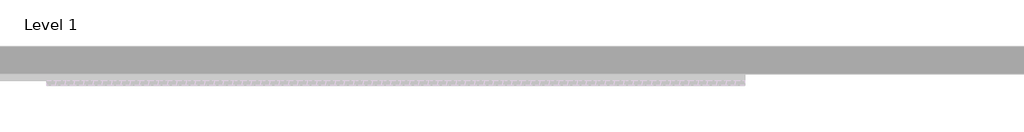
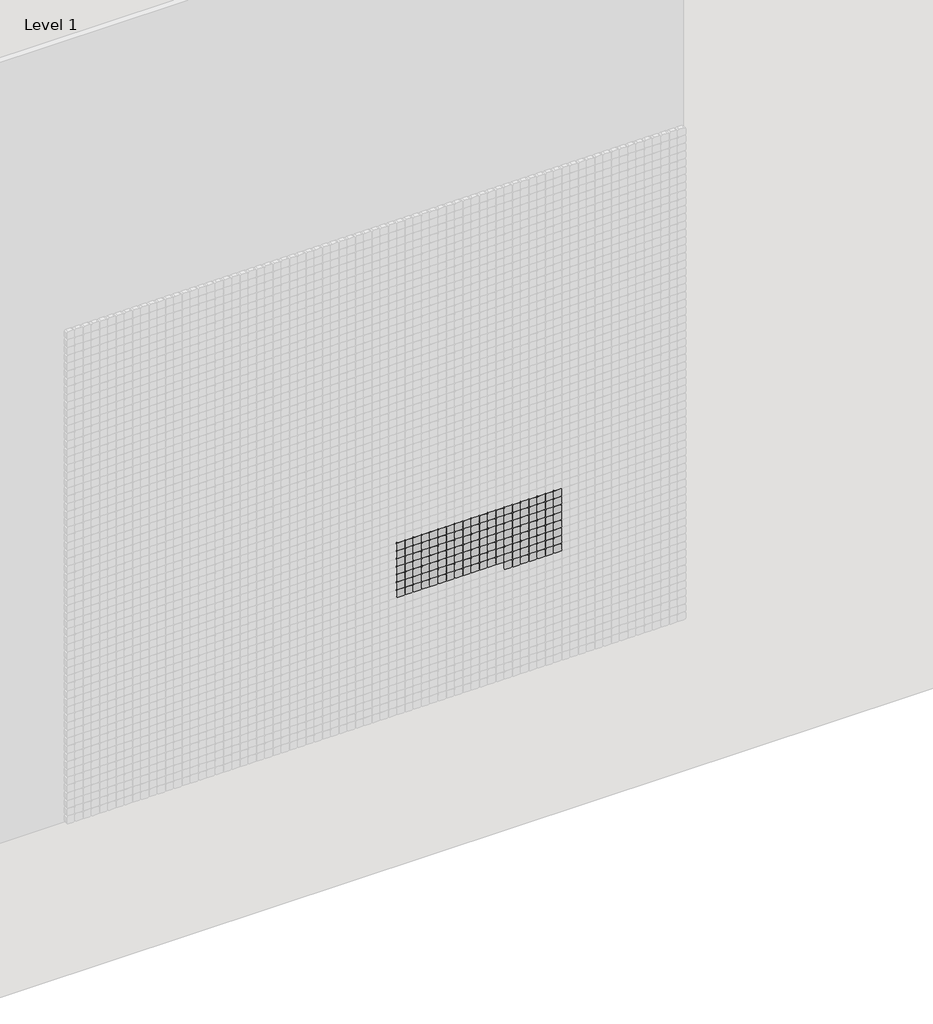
# One storey, part 59 of 71: 147 proxies.
"""IFC4 building model written with IfcOpenShell, lengths in millimetres."""

from ifc_helpers import new_model, si_unit, origin, place, context, project, spatial, transform, mapped, element, save
from components import generic_models_afde289c

model = new_model("IFC4")

# Units and contexts
model_context = context("Model", 3, world=origin())
ifc_project = project(units=[si_unit("LENGTHUNIT", "METRE", prefix="MILLI")], contexts=[model_context])

# Site, building, storey
site = spatial("IfcSite", under=ifc_project)
building = spatial("IfcBuilding", under=site)
storey = spatial("IfcBuildingStorey", under=building, Name="Level 1", Elevation=0.0)

# Proxies
placement = place(None, origin())
generic_models_shape = generic_models_afde289c(model_context)
element("IfcBuildingElementProxy", 1, Name="Pixel_M : Pixel_M", ObjectType="Pixel_M : Pixel_M", at=placement, inside=storey, context=model_context, shape_type="MappedRepresentation", body=[
    mapped(generic_models_shape, transform((8962.4280941, -75.0, 2066.3566215), x_axis=(1.0, 0.0, 0.0), y_axis=(0.0, 0.0, 1.0), z_axis=(0.0, -1.0, 0.0))),
])
element("IfcBuildingElementProxy", 2, Name="Pixel_M : Pixel_M", ObjectType="Pixel_M : Pixel_M", at=placement, inside=storey, context=model_context, shape_type="MappedRepresentation", body=[
    mapped(generic_models_shape, transform((8912.4280941, -75.0, 2066.3566215), x_axis=(1.0, 0.0, 0.0), y_axis=(0.0, 0.0, 1.0), z_axis=(0.0, -1.0, 0.0))),
])
element("IfcBuildingElementProxy", 3, Name="Pixel_M : Pixel_M", ObjectType="Pixel_M : Pixel_M", at=placement, inside=storey, context=model_context, shape_type="MappedRepresentation", body=[
    mapped(generic_models_shape, transform((8862.4280941, -75.0, 2066.3566215), x_axis=(1.0, 0.0, 0.0), y_axis=(0.0, 0.0, 1.0), z_axis=(0.0, -1.0, 0.0))),
])
element("IfcBuildingElementProxy", 4, Name="Pixel_M : Pixel_M", ObjectType="Pixel_M : Pixel_M", at=placement, inside=storey, context=model_context, shape_type="MappedRepresentation", body=[
    mapped(generic_models_shape, transform((8812.4280941, -75.0, 2066.3566215), x_axis=(1.0, 0.0, 0.0), y_axis=(0.0, 0.0, 1.0), z_axis=(0.0, -1.0, 0.0))),
])
element("IfcBuildingElementProxy", 5, Name="Pixel_M : Pixel_M", ObjectType="Pixel_M : Pixel_M", at=placement, inside=storey, context=model_context, shape_type="MappedRepresentation", body=[
    mapped(generic_models_shape, transform((8762.4280941, -75.0, 2066.3566215), x_axis=(1.0, 0.0, 0.0), y_axis=(0.0, 0.0, 1.0), z_axis=(0.0, -1.0, 0.0))),
])
element("IfcBuildingElementProxy", 6, Name="Pixel_M : Pixel_M", ObjectType="Pixel_M : Pixel_M", at=placement, inside=storey, context=model_context, shape_type="MappedRepresentation", body=[
    mapped(generic_models_shape, transform((8712.4280941, -75.0, 2066.3566215), x_axis=(1.0, 0.0, 0.0), y_axis=(0.0, 0.0, 1.0), z_axis=(0.0, -1.0, 0.0))),
])
element("IfcBuildingElementProxy", 7, Name="Pixel_M : Pixel_M", ObjectType="Pixel_M : Pixel_M", at=placement, inside=storey, context=model_context, shape_type="MappedRepresentation", body=[
    mapped(generic_models_shape, transform((8662.4280941, -75.0, 2066.3566215), x_axis=(1.0, 0.0, 0.0), y_axis=(0.0, 0.0, 1.0), z_axis=(0.0, -1.0, 0.0))),
])
element("IfcBuildingElementProxy", 8, Name="Pixel_M : Pixel_M", ObjectType="Pixel_M : Pixel_M", at=placement, inside=storey, context=model_context, shape_type="MappedRepresentation", body=[
    mapped(generic_models_shape, transform((8612.4280941, -75.0, 2066.3566215), x_axis=(1.0, 0.0, 0.0), y_axis=(0.0, 0.0, 1.0), z_axis=(0.0, -1.0, 0.0))),
])
element("IfcBuildingElementProxy", 9, Name="Pixel_M : Pixel_M", ObjectType="Pixel_M : Pixel_M", at=placement, inside=storey, context=model_context, shape_type="MappedRepresentation", body=[
    mapped(generic_models_shape, transform((8562.4280941, -75.0, 2066.3566215), x_axis=(1.0, 0.0, 0.0), y_axis=(0.0, 0.0, 1.0), z_axis=(0.0, -1.0, 0.0))),
])
element("IfcBuildingElementProxy", 10, Name="Pixel_M : Pixel_M", ObjectType="Pixel_M : Pixel_M", at=placement, inside=storey, context=model_context, shape_type="MappedRepresentation", body=[
    mapped(generic_models_shape, transform((8512.4280941, -75.0, 2066.3566215), x_axis=(1.0, 0.0, 0.0), y_axis=(0.0, 0.0, 1.0), z_axis=(0.0, -1.0, 0.0))),
])
element("IfcBuildingElementProxy", 11, Name="Pixel_M : Pixel_M", ObjectType="Pixel_M : Pixel_M", at=placement, inside=storey, context=model_context, shape_type="MappedRepresentation", body=[
    mapped(generic_models_shape, transform((8462.4280941, -75.0, 2066.3566215), x_axis=(1.0, 0.0, 0.0), y_axis=(0.0, 0.0, 1.0), z_axis=(0.0, -1.0, 0.0))),
])
element("IfcBuildingElementProxy", 12, Name="Pixel_M : Pixel_M", ObjectType="Pixel_M : Pixel_M", at=placement, inside=storey, context=model_context, shape_type="MappedRepresentation", body=[
    mapped(generic_models_shape, transform((8412.4280941, -75.0, 2066.3566215), x_axis=(1.0, 0.0, 0.0), y_axis=(0.0, 0.0, 1.0), z_axis=(0.0, -1.0, 0.0))),
])
element("IfcBuildingElementProxy", 13, Name="Pixel_M : Pixel_M", ObjectType="Pixel_M : Pixel_M", at=placement, inside=storey, context=model_context, shape_type="MappedRepresentation", body=[
    mapped(generic_models_shape, transform((8362.4280941, -75.0, 2066.3566215), x_axis=(1.0, 0.0, 0.0), y_axis=(0.0, 0.0, 1.0), z_axis=(0.0, -1.0, 0.0))),
])
element("IfcBuildingElementProxy", 14, Name="Pixel_M : Pixel_M", ObjectType="Pixel_M : Pixel_M", at=placement, inside=storey, context=model_context, shape_type="MappedRepresentation", body=[
    mapped(generic_models_shape, transform((8312.4280941, -75.0, 2066.3566215), x_axis=(1.0, 0.0, 0.0), y_axis=(0.0, 0.0, 1.0), z_axis=(0.0, -1.0, 0.0))),
])
element("IfcBuildingElementProxy", 15, Name="Pixel_M : Pixel_M", ObjectType="Pixel_M : Pixel_M", at=placement, inside=storey, context=model_context, shape_type="MappedRepresentation", body=[
    mapped(generic_models_shape, transform((8262.4280941, -75.0, 2066.3566215), x_axis=(1.0, 0.0, 0.0), y_axis=(0.0, 0.0, 1.0), z_axis=(0.0, -1.0, 0.0))),
])
element("IfcBuildingElementProxy", 16, Name="Pixel_M : Pixel_M", ObjectType="Pixel_M : Pixel_M", at=placement, inside=storey, context=model_context, shape_type="MappedRepresentation", body=[
    mapped(generic_models_shape, transform((8212.4280941, -75.0, 2066.3566215), x_axis=(1.0, 0.0, 0.0), y_axis=(0.0, 0.0, 1.0), z_axis=(0.0, -1.0, 0.0))),
])
element("IfcBuildingElementProxy", 17, Name="Pixel_M : Pixel_M", ObjectType="Pixel_M : Pixel_M", at=placement, inside=storey, context=model_context, shape_type="MappedRepresentation", body=[
    mapped(generic_models_shape, transform((8162.4280941, -75.0, 2066.3566215), x_axis=(1.0, 0.0, 0.0), y_axis=(0.0, 0.0, 1.0), z_axis=(0.0, -1.0, 0.0))),
])
element("IfcBuildingElementProxy", 18, Name="Pixel_M : Pixel_M", ObjectType="Pixel_M : Pixel_M", at=placement, inside=storey, context=model_context, shape_type="MappedRepresentation", body=[
    mapped(generic_models_shape, transform((8112.4280941, -75.0, 2066.3566215), x_axis=(1.0, 0.0, 0.0), y_axis=(0.0, 0.0, 1.0), z_axis=(0.0, -1.0, 0.0))),
])
element("IfcBuildingElementProxy", 19, Name="Pixel_M : Pixel_M", ObjectType="Pixel_M : Pixel_M", at=placement, inside=storey, context=model_context, shape_type="MappedRepresentation", body=[
    mapped(generic_models_shape, transform((8062.4280941, -75.0, 2066.3566215), x_axis=(1.0, 0.0, 0.0), y_axis=(0.0, 0.0, 1.0), z_axis=(0.0, -1.0, 0.0))),
])
element("IfcBuildingElementProxy", 20, Name="Pixel_M : Pixel_M", ObjectType="Pixel_M : Pixel_M", at=placement, inside=storey, context=model_context, shape_type="MappedRepresentation", body=[
    mapped(generic_models_shape, transform((8012.4280941, -75.0, 2066.3566215), x_axis=(1.0, 0.0, 0.0), y_axis=(0.0, 0.0, 1.0), z_axis=(0.0, -1.0, 0.0))),
])
element("IfcBuildingElementProxy", 21, Name="Pixel_M : Pixel_M", ObjectType="Pixel_M : Pixel_M", at=placement, inside=storey, context=model_context, shape_type="MappedRepresentation", body=[
    mapped(generic_models_shape, transform((8962.4280941, -75.0, 2016.3566215), x_axis=(1.0, 0.0, 0.0), y_axis=(0.0, 0.0, 1.0), z_axis=(0.0, -1.0, 0.0))),
])
element("IfcBuildingElementProxy", 22, Name="Pixel_M : Pixel_M", ObjectType="Pixel_M : Pixel_M", at=placement, inside=storey, context=model_context, shape_type="MappedRepresentation", body=[
    mapped(generic_models_shape, transform((8912.4280941, -75.0, 2016.3566215), x_axis=(1.0, 0.0, 0.0), y_axis=(0.0, 0.0, 1.0), z_axis=(0.0, -1.0, 0.0))),
])
element("IfcBuildingElementProxy", 23, Name="Pixel_M : Pixel_M", ObjectType="Pixel_M : Pixel_M", at=placement, inside=storey, context=model_context, shape_type="MappedRepresentation", body=[
    mapped(generic_models_shape, transform((8862.4280941, -75.0, 2016.3566215), x_axis=(1.0, 0.0, 0.0), y_axis=(0.0, 0.0, 1.0), z_axis=(0.0, -1.0, 0.0))),
])
element("IfcBuildingElementProxy", 24, Name="Pixel_M : Pixel_M", ObjectType="Pixel_M : Pixel_M", at=placement, inside=storey, context=model_context, shape_type="MappedRepresentation", body=[
    mapped(generic_models_shape, transform((8812.4280941, -75.0, 2016.3566215), x_axis=(1.0, 0.0, 0.0), y_axis=(0.0, 0.0, 1.0), z_axis=(0.0, -1.0, 0.0))),
])
element("IfcBuildingElementProxy", 25, Name="Pixel_M : Pixel_M", ObjectType="Pixel_M : Pixel_M", at=placement, inside=storey, context=model_context, shape_type="MappedRepresentation", body=[
    mapped(generic_models_shape, transform((8762.4280941, -75.0, 2016.3566215), x_axis=(1.0, 0.0, 0.0), y_axis=(0.0, 0.0, 1.0), z_axis=(0.0, -1.0, 0.0))),
])
element("IfcBuildingElementProxy", 26, Name="Pixel_M : Pixel_M", ObjectType="Pixel_M : Pixel_M", at=placement, inside=storey, context=model_context, shape_type="MappedRepresentation", body=[
    mapped(generic_models_shape, transform((8712.4280941, -75.0, 2016.3566215), x_axis=(1.0, 0.0, 0.0), y_axis=(0.0, 0.0, 1.0), z_axis=(0.0, -1.0, 0.0))),
])
element("IfcBuildingElementProxy", 27, Name="Pixel_M : Pixel_M", ObjectType="Pixel_M : Pixel_M", at=placement, inside=storey, context=model_context, shape_type="MappedRepresentation", body=[
    mapped(generic_models_shape, transform((8662.4280941, -75.0, 2016.3566215), x_axis=(1.0, 0.0, 0.0), y_axis=(0.0, 0.0, 1.0), z_axis=(0.0, -1.0, 0.0))),
])
element("IfcBuildingElementProxy", 28, Name="Pixel_M : Pixel_M", ObjectType="Pixel_M : Pixel_M", at=placement, inside=storey, context=model_context, shape_type="MappedRepresentation", body=[
    mapped(generic_models_shape, transform((8612.4280941, -75.0, 2016.3566215), x_axis=(1.0, 0.0, 0.0), y_axis=(0.0, 0.0, 1.0), z_axis=(0.0, -1.0, 0.0))),
])
element("IfcBuildingElementProxy", 29, Name="Pixel_M : Pixel_M", ObjectType="Pixel_M : Pixel_M", at=placement, inside=storey, context=model_context, shape_type="MappedRepresentation", body=[
    mapped(generic_models_shape, transform((8562.4280941, -75.0, 2016.3566215), x_axis=(1.0, 0.0, 0.0), y_axis=(0.0, 0.0, 1.0), z_axis=(0.0, -1.0, 0.0))),
])
element("IfcBuildingElementProxy", 30, Name="Pixel_M : Pixel_M", ObjectType="Pixel_M : Pixel_M", at=placement, inside=storey, context=model_context, shape_type="MappedRepresentation", body=[
    mapped(generic_models_shape, transform((8512.4280941, -75.0, 2016.3566215), x_axis=(1.0, 0.0, 0.0), y_axis=(0.0, 0.0, 1.0), z_axis=(0.0, -1.0, 0.0))),
])
element("IfcBuildingElementProxy", 31, Name="Pixel_M : Pixel_M", ObjectType="Pixel_M : Pixel_M", at=placement, inside=storey, context=model_context, shape_type="MappedRepresentation", body=[
    mapped(generic_models_shape, transform((8462.4280941, -75.0, 2016.3566215), x_axis=(1.0, 0.0, 0.0), y_axis=(0.0, 0.0, 1.0), z_axis=(0.0, -1.0, 0.0))),
])
element("IfcBuildingElementProxy", 32, Name="Pixel_M : Pixel_M", ObjectType="Pixel_M : Pixel_M", at=placement, inside=storey, context=model_context, shape_type="MappedRepresentation", body=[
    mapped(generic_models_shape, transform((8412.4280941, -75.0, 2016.3566215), x_axis=(1.0, 0.0, 0.0), y_axis=(0.0, 0.0, 1.0), z_axis=(0.0, -1.0, 0.0))),
])
element("IfcBuildingElementProxy", 33, Name="Pixel_M : Pixel_M", ObjectType="Pixel_M : Pixel_M", at=placement, inside=storey, context=model_context, shape_type="MappedRepresentation", body=[
    mapped(generic_models_shape, transform((8362.4280941, -75.0, 2016.3566215), x_axis=(1.0, 0.0, 0.0), y_axis=(0.0, 0.0, 1.0), z_axis=(0.0, -1.0, 0.0))),
])
element("IfcBuildingElementProxy", 34, Name="Pixel_M : Pixel_M", ObjectType="Pixel_M : Pixel_M", at=placement, inside=storey, context=model_context, shape_type="MappedRepresentation", body=[
    mapped(generic_models_shape, transform((8312.4280941, -75.0, 2016.3566215), x_axis=(1.0, 0.0, 0.0), y_axis=(0.0, 0.0, 1.0), z_axis=(0.0, -1.0, 0.0))),
])
element("IfcBuildingElementProxy", 35, Name="Pixel_M : Pixel_M", ObjectType="Pixel_M : Pixel_M", at=placement, inside=storey, context=model_context, shape_type="MappedRepresentation", body=[
    mapped(generic_models_shape, transform((8262.4280941, -75.0, 2016.3566215), x_axis=(1.0, 0.0, 0.0), y_axis=(0.0, 0.0, 1.0), z_axis=(0.0, -1.0, 0.0))),
])
element("IfcBuildingElementProxy", 36, Name="Pixel_M : Pixel_M", ObjectType="Pixel_M : Pixel_M", at=placement, inside=storey, context=model_context, shape_type="MappedRepresentation", body=[
    mapped(generic_models_shape, transform((8212.4280941, -75.0, 2016.3566215), x_axis=(1.0, 0.0, 0.0), y_axis=(0.0, 0.0, 1.0), z_axis=(0.0, -1.0, 0.0))),
])
element("IfcBuildingElementProxy", 37, Name="Pixel_M : Pixel_M", ObjectType="Pixel_M : Pixel_M", at=placement, inside=storey, context=model_context, shape_type="MappedRepresentation", body=[
    mapped(generic_models_shape, transform((8162.4280941, -75.0, 2016.3566215), x_axis=(1.0, 0.0, 0.0), y_axis=(0.0, 0.0, 1.0), z_axis=(0.0, -1.0, 0.0))),
])
element("IfcBuildingElementProxy", 38, Name="Pixel_M : Pixel_M", ObjectType="Pixel_M : Pixel_M", at=placement, inside=storey, context=model_context, shape_type="MappedRepresentation", body=[
    mapped(generic_models_shape, transform((8112.4280941, -75.0, 2016.3566215), x_axis=(1.0, 0.0, 0.0), y_axis=(0.0, 0.0, 1.0), z_axis=(0.0, -1.0, 0.0))),
])
element("IfcBuildingElementProxy", 39, Name="Pixel_M : Pixel_M", ObjectType="Pixel_M : Pixel_M", at=placement, inside=storey, context=model_context, shape_type="MappedRepresentation", body=[
    mapped(generic_models_shape, transform((8062.4280941, -75.0, 2016.3566215), x_axis=(1.0, 0.0, 0.0), y_axis=(0.0, 0.0, 1.0), z_axis=(0.0, -1.0, 0.0))),
])
element("IfcBuildingElementProxy", 40, Name="Pixel_M : Pixel_M", ObjectType="Pixel_M : Pixel_M", at=placement, inside=storey, context=model_context, shape_type="MappedRepresentation", body=[
    mapped(generic_models_shape, transform((8012.4280941, -75.0, 2016.3566215), x_axis=(1.0, 0.0, 0.0), y_axis=(0.0, 0.0, 1.0), z_axis=(0.0, -1.0, 0.0))),
])
element("IfcBuildingElementProxy", 41, Name="Pixel_M : Pixel_M", ObjectType="Pixel_M : Pixel_M", at=placement, inside=storey, context=model_context, shape_type="MappedRepresentation", body=[
    mapped(generic_models_shape, transform((8962.4280941, -75.0, 1966.3566215), x_axis=(1.0, 0.0, 0.0), y_axis=(0.0, 0.0, 1.0), z_axis=(0.0, -1.0, 0.0))),
])
element("IfcBuildingElementProxy", 42, Name="Pixel_M : Pixel_M", ObjectType="Pixel_M : Pixel_M", at=placement, inside=storey, context=model_context, shape_type="MappedRepresentation", body=[
    mapped(generic_models_shape, transform((8912.4280941, -75.0, 1966.3566215), x_axis=(1.0, 0.0, 0.0), y_axis=(0.0, 0.0, 1.0), z_axis=(0.0, -1.0, 0.0))),
])
element("IfcBuildingElementProxy", 43, Name="Pixel_M : Pixel_M", ObjectType="Pixel_M : Pixel_M", at=placement, inside=storey, context=model_context, shape_type="MappedRepresentation", body=[
    mapped(generic_models_shape, transform((8862.4280941, -75.0, 1966.3566215), x_axis=(1.0, 0.0, 0.0), y_axis=(0.0, 0.0, 1.0), z_axis=(0.0, -1.0, 0.0))),
])
element("IfcBuildingElementProxy", 44, Name="Pixel_M : Pixel_M", ObjectType="Pixel_M : Pixel_M", at=placement, inside=storey, context=model_context, shape_type="MappedRepresentation", body=[
    mapped(generic_models_shape, transform((8812.4280941, -75.0, 1966.3566215), x_axis=(1.0, 0.0, 0.0), y_axis=(0.0, 0.0, 1.0), z_axis=(0.0, -1.0, 0.0))),
])
element("IfcBuildingElementProxy", 45, Name="Pixel_M : Pixel_M", ObjectType="Pixel_M : Pixel_M", at=placement, inside=storey, context=model_context, shape_type="MappedRepresentation", body=[
    mapped(generic_models_shape, transform((8762.4280941, -75.0, 1966.3566215), x_axis=(1.0, 0.0, 0.0), y_axis=(0.0, 0.0, 1.0), z_axis=(0.0, -1.0, 0.0))),
])
element("IfcBuildingElementProxy", 46, Name="Pixel_M : Pixel_M", ObjectType="Pixel_M : Pixel_M", at=placement, inside=storey, context=model_context, shape_type="MappedRepresentation", body=[
    mapped(generic_models_shape, transform((8712.4280941, -75.0, 1966.3566215), x_axis=(1.0, 0.0, 0.0), y_axis=(0.0, 0.0, 1.0), z_axis=(0.0, -1.0, 0.0))),
])
element("IfcBuildingElementProxy", 47, Name="Pixel_M : Pixel_M", ObjectType="Pixel_M : Pixel_M", at=placement, inside=storey, context=model_context, shape_type="MappedRepresentation", body=[
    mapped(generic_models_shape, transform((8662.4280941, -75.0, 1966.3566215), x_axis=(1.0, 0.0, 0.0), y_axis=(0.0, 0.0, 1.0), z_axis=(0.0, -1.0, 0.0))),
])
element("IfcBuildingElementProxy", 48, Name="Pixel_M : Pixel_M", ObjectType="Pixel_M : Pixel_M", at=placement, inside=storey, context=model_context, shape_type="MappedRepresentation", body=[
    mapped(generic_models_shape, transform((8612.4280941, -75.0, 1966.3566215), x_axis=(1.0, 0.0, 0.0), y_axis=(0.0, 0.0, 1.0), z_axis=(0.0, -1.0, 0.0))),
])
element("IfcBuildingElementProxy", 49, Name="Pixel_M : Pixel_M", ObjectType="Pixel_M : Pixel_M", at=placement, inside=storey, context=model_context, shape_type="MappedRepresentation", body=[
    mapped(generic_models_shape, transform((8562.4280941, -75.0, 1966.3566215), x_axis=(1.0, 0.0, 0.0), y_axis=(0.0, 0.0, 1.0), z_axis=(0.0, -1.0, 0.0))),
])
element("IfcBuildingElementProxy", 50, Name="Pixel_M : Pixel_M", ObjectType="Pixel_M : Pixel_M", at=placement, inside=storey, context=model_context, shape_type="MappedRepresentation", body=[
    mapped(generic_models_shape, transform((8512.4280941, -75.0, 1966.3566215), x_axis=(1.0, 0.0, 0.0), y_axis=(0.0, 0.0, 1.0), z_axis=(0.0, -1.0, 0.0))),
])
element("IfcBuildingElementProxy", 51, Name="Pixel_M : Pixel_M", ObjectType="Pixel_M : Pixel_M", at=placement, inside=storey, context=model_context, shape_type="MappedRepresentation", body=[
    mapped(generic_models_shape, transform((8462.4280941, -75.0, 1966.3566215), x_axis=(1.0, 0.0, 0.0), y_axis=(0.0, 0.0, 1.0), z_axis=(0.0, -1.0, 0.0))),
])
element("IfcBuildingElementProxy", 52, Name="Pixel_M : Pixel_M", ObjectType="Pixel_M : Pixel_M", at=placement, inside=storey, context=model_context, shape_type="MappedRepresentation", body=[
    mapped(generic_models_shape, transform((8412.4280941, -75.0, 1966.3566215), x_axis=(1.0, 0.0, 0.0), y_axis=(0.0, 0.0, 1.0), z_axis=(0.0, -1.0, 0.0))),
])
element("IfcBuildingElementProxy", 53, Name="Pixel_M : Pixel_M", ObjectType="Pixel_M : Pixel_M", at=placement, inside=storey, context=model_context, shape_type="MappedRepresentation", body=[
    mapped(generic_models_shape, transform((8362.4280941, -75.0, 1966.3566215), x_axis=(1.0, 0.0, 0.0), y_axis=(0.0, 0.0, 1.0), z_axis=(0.0, -1.0, 0.0))),
])
element("IfcBuildingElementProxy", 54, Name="Pixel_M : Pixel_M", ObjectType="Pixel_M : Pixel_M", at=placement, inside=storey, context=model_context, shape_type="MappedRepresentation", body=[
    mapped(generic_models_shape, transform((8312.4280941, -75.0, 1966.3566215), x_axis=(1.0, 0.0, 0.0), y_axis=(0.0, 0.0, 1.0), z_axis=(0.0, -1.0, 0.0))),
])
element("IfcBuildingElementProxy", 55, Name="Pixel_M : Pixel_M", ObjectType="Pixel_M : Pixel_M", at=placement, inside=storey, context=model_context, shape_type="MappedRepresentation", body=[
    mapped(generic_models_shape, transform((8262.4280941, -75.0, 1966.3566215), x_axis=(1.0, 0.0, 0.0), y_axis=(0.0, 0.0, 1.0), z_axis=(0.0, -1.0, 0.0))),
])
element("IfcBuildingElementProxy", 56, Name="Pixel_M : Pixel_M", ObjectType="Pixel_M : Pixel_M", at=placement, inside=storey, context=model_context, shape_type="MappedRepresentation", body=[
    mapped(generic_models_shape, transform((8212.4280941, -75.0, 1966.3566215), x_axis=(1.0, 0.0, 0.0), y_axis=(0.0, 0.0, 1.0), z_axis=(0.0, -1.0, 0.0))),
])
element("IfcBuildingElementProxy", 57, Name="Pixel_M : Pixel_M", ObjectType="Pixel_M : Pixel_M", at=placement, inside=storey, context=model_context, shape_type="MappedRepresentation", body=[
    mapped(generic_models_shape, transform((8162.4280941, -75.0, 1966.3566215), x_axis=(1.0, 0.0, 0.0), y_axis=(0.0, 0.0, 1.0), z_axis=(0.0, -1.0, 0.0))),
])
element("IfcBuildingElementProxy", 58, Name="Pixel_M : Pixel_M", ObjectType="Pixel_M : Pixel_M", at=placement, inside=storey, context=model_context, shape_type="MappedRepresentation", body=[
    mapped(generic_models_shape, transform((8112.4280941, -75.0, 1966.3566215), x_axis=(1.0, 0.0, 0.0), y_axis=(0.0, 0.0, 1.0), z_axis=(0.0, -1.0, 0.0))),
])
element("IfcBuildingElementProxy", 59, Name="Pixel_M : Pixel_M", ObjectType="Pixel_M : Pixel_M", at=placement, inside=storey, context=model_context, shape_type="MappedRepresentation", body=[
    mapped(generic_models_shape, transform((8062.4280941, -75.0, 1966.3566215), x_axis=(1.0, 0.0, 0.0), y_axis=(0.0, 0.0, 1.0), z_axis=(0.0, -1.0, 0.0))),
])
element("IfcBuildingElementProxy", 60, Name="Pixel_M : Pixel_M", ObjectType="Pixel_M : Pixel_M", at=placement, inside=storey, context=model_context, shape_type="MappedRepresentation", body=[
    mapped(generic_models_shape, transform((8012.4280941, -75.0, 1966.3566215), x_axis=(1.0, 0.0, 0.0), y_axis=(0.0, 0.0, 1.0), z_axis=(0.0, -1.0, 0.0))),
])
element("IfcBuildingElementProxy", 61, Name="Pixel_M : Pixel_M", ObjectType="Pixel_M : Pixel_M", at=placement, inside=storey, context=model_context, shape_type="MappedRepresentation", body=[
    mapped(generic_models_shape, transform((8962.4280941, -75.0, 1916.3566215), x_axis=(1.0, 0.0, 0.0), y_axis=(0.0, 0.0, 1.0), z_axis=(0.0, -1.0, 0.0))),
])
element("IfcBuildingElementProxy", 62, Name="Pixel_M : Pixel_M", ObjectType="Pixel_M : Pixel_M", at=placement, inside=storey, context=model_context, shape_type="MappedRepresentation", body=[
    mapped(generic_models_shape, transform((8912.4280941, -75.0, 1916.3566215), x_axis=(1.0, 0.0, 0.0), y_axis=(0.0, 0.0, 1.0), z_axis=(0.0, -1.0, 0.0))),
])
element("IfcBuildingElementProxy", 63, Name="Pixel_M : Pixel_M", ObjectType="Pixel_M : Pixel_M", at=placement, inside=storey, context=model_context, shape_type="MappedRepresentation", body=[
    mapped(generic_models_shape, transform((8862.4280941, -75.0, 1916.3566215), x_axis=(1.0, 0.0, 0.0), y_axis=(0.0, 0.0, 1.0), z_axis=(0.0, -1.0, 0.0))),
])
element("IfcBuildingElementProxy", 64, Name="Pixel_M : Pixel_M", ObjectType="Pixel_M : Pixel_M", at=placement, inside=storey, context=model_context, shape_type="MappedRepresentation", body=[
    mapped(generic_models_shape, transform((8812.4280941, -75.0, 1916.3566215), x_axis=(1.0, 0.0, 0.0), y_axis=(0.0, 0.0, 1.0), z_axis=(0.0, -1.0, 0.0))),
])
element("IfcBuildingElementProxy", 65, Name="Pixel_M : Pixel_M", ObjectType="Pixel_M : Pixel_M", at=placement, inside=storey, context=model_context, shape_type="MappedRepresentation", body=[
    mapped(generic_models_shape, transform((8762.4280941, -75.0, 1916.3566215), x_axis=(1.0, 0.0, 0.0), y_axis=(0.0, 0.0, 1.0), z_axis=(0.0, -1.0, 0.0))),
])
element("IfcBuildingElementProxy", 66, Name="Pixel_M : Pixel_M", ObjectType="Pixel_M : Pixel_M", at=placement, inside=storey, context=model_context, shape_type="MappedRepresentation", body=[
    mapped(generic_models_shape, transform((8712.4280941, -75.0, 1916.3566215), x_axis=(1.0, 0.0, 0.0), y_axis=(0.0, 0.0, 1.0), z_axis=(0.0, -1.0, 0.0))),
])
element("IfcBuildingElementProxy", 67, Name="Pixel_M : Pixel_M", ObjectType="Pixel_M : Pixel_M", at=placement, inside=storey, context=model_context, shape_type="MappedRepresentation", body=[
    mapped(generic_models_shape, transform((8662.4280941, -75.0, 1916.3566215), x_axis=(1.0, 0.0, 0.0), y_axis=(0.0, 0.0, 1.0), z_axis=(0.0, -1.0, 0.0))),
])
element("IfcBuildingElementProxy", 68, Name="Pixel_M : Pixel_M", ObjectType="Pixel_M : Pixel_M", at=placement, inside=storey, context=model_context, shape_type="MappedRepresentation", body=[
    mapped(generic_models_shape, transform((8612.4280941, -75.0, 1916.3566215), x_axis=(1.0, 0.0, 0.0), y_axis=(0.0, 0.0, 1.0), z_axis=(0.0, -1.0, 0.0))),
])
element("IfcBuildingElementProxy", 69, Name="Pixel_M : Pixel_M", ObjectType="Pixel_M : Pixel_M", at=placement, inside=storey, context=model_context, shape_type="MappedRepresentation", body=[
    mapped(generic_models_shape, transform((8562.4280941, -75.0, 1916.3566215), x_axis=(1.0, 0.0, 0.0), y_axis=(0.0, 0.0, 1.0), z_axis=(0.0, -1.0, 0.0))),
])
element("IfcBuildingElementProxy", 70, Name="Pixel_M : Pixel_M", ObjectType="Pixel_M : Pixel_M", at=placement, inside=storey, context=model_context, shape_type="MappedRepresentation", body=[
    mapped(generic_models_shape, transform((8512.4280941, -75.0, 1916.3566215), x_axis=(1.0, 0.0, 0.0), y_axis=(0.0, 0.0, 1.0), z_axis=(0.0, -1.0, 0.0))),
])
element("IfcBuildingElementProxy", 71, Name="Pixel_M : Pixel_M", ObjectType="Pixel_M : Pixel_M", at=placement, inside=storey, context=model_context, shape_type="MappedRepresentation", body=[
    mapped(generic_models_shape, transform((8462.4280941, -75.0, 1916.3566215), x_axis=(1.0, 0.0, 0.0), y_axis=(0.0, 0.0, 1.0), z_axis=(0.0, -1.0, 0.0))),
])
element("IfcBuildingElementProxy", 72, Name="Pixel_M : Pixel_M", ObjectType="Pixel_M : Pixel_M", at=placement, inside=storey, context=model_context, shape_type="MappedRepresentation", body=[
    mapped(generic_models_shape, transform((8412.4280941, -75.0, 1916.3566215), x_axis=(1.0, 0.0, 0.0), y_axis=(0.0, 0.0, 1.0), z_axis=(0.0, -1.0, 0.0))),
])
element("IfcBuildingElementProxy", 73, Name="Pixel_M : Pixel_M", ObjectType="Pixel_M : Pixel_M", at=placement, inside=storey, context=model_context, shape_type="MappedRepresentation", body=[
    mapped(generic_models_shape, transform((8362.4280941, -75.0, 1916.3566215), x_axis=(1.0, 0.0, 0.0), y_axis=(0.0, 0.0, 1.0), z_axis=(0.0, -1.0, 0.0))),
])
element("IfcBuildingElementProxy", 74, Name="Pixel_M : Pixel_M", ObjectType="Pixel_M : Pixel_M", at=placement, inside=storey, context=model_context, shape_type="MappedRepresentation", body=[
    mapped(generic_models_shape, transform((8312.4280941, -75.0, 1916.3566215), x_axis=(1.0, 0.0, 0.0), y_axis=(0.0, 0.0, 1.0), z_axis=(0.0, -1.0, 0.0))),
])
element("IfcBuildingElementProxy", 75, Name="Pixel_M : Pixel_M", ObjectType="Pixel_M : Pixel_M", at=placement, inside=storey, context=model_context, shape_type="MappedRepresentation", body=[
    mapped(generic_models_shape, transform((8262.4280941, -75.0, 1916.3566215), x_axis=(1.0, 0.0, 0.0), y_axis=(0.0, 0.0, 1.0), z_axis=(0.0, -1.0, 0.0))),
])
element("IfcBuildingElementProxy", 76, Name="Pixel_M : Pixel_M", ObjectType="Pixel_M : Pixel_M", at=placement, inside=storey, context=model_context, shape_type="MappedRepresentation", body=[
    mapped(generic_models_shape, transform((8212.4280941, -75.0, 1916.3566215), x_axis=(1.0, 0.0, 0.0), y_axis=(0.0, 0.0, 1.0), z_axis=(0.0, -1.0, 0.0))),
])
element("IfcBuildingElementProxy", 77, Name="Pixel_M : Pixel_M", ObjectType="Pixel_M : Pixel_M", at=placement, inside=storey, context=model_context, shape_type="MappedRepresentation", body=[
    mapped(generic_models_shape, transform((8162.4280941, -75.0, 1916.3566215), x_axis=(1.0, 0.0, 0.0), y_axis=(0.0, 0.0, 1.0), z_axis=(0.0, -1.0, 0.0))),
])
element("IfcBuildingElementProxy", 78, Name="Pixel_M : Pixel_M", ObjectType="Pixel_M : Pixel_M", at=placement, inside=storey, context=model_context, shape_type="MappedRepresentation", body=[
    mapped(generic_models_shape, transform((8112.4280941, -75.0, 1916.3566215), x_axis=(1.0, 0.0, 0.0), y_axis=(0.0, 0.0, 1.0), z_axis=(0.0, -1.0, 0.0))),
])
element("IfcBuildingElementProxy", 79, Name="Pixel_M : Pixel_M", ObjectType="Pixel_M : Pixel_M", at=placement, inside=storey, context=model_context, shape_type="MappedRepresentation", body=[
    mapped(generic_models_shape, transform((8062.4280941, -75.0, 1916.3566215), x_axis=(1.0, 0.0, 0.0), y_axis=(0.0, 0.0, 1.0), z_axis=(0.0, -1.0, 0.0))),
])
element("IfcBuildingElementProxy", 80, Name="Pixel_M : Pixel_M", ObjectType="Pixel_M : Pixel_M", at=placement, inside=storey, context=model_context, shape_type="MappedRepresentation", body=[
    mapped(generic_models_shape, transform((8012.4280941, -75.0, 1916.3566215), x_axis=(1.0, 0.0, 0.0), y_axis=(0.0, 0.0, 1.0), z_axis=(0.0, -1.0, 0.0))),
])
element("IfcBuildingElementProxy", 81, Name="Pixel_M : Pixel_M", ObjectType="Pixel_M : Pixel_M", at=placement, inside=storey, context=model_context, shape_type="MappedRepresentation", body=[
    mapped(generic_models_shape, transform((8962.4280941, -75.0, 1866.3566215), x_axis=(1.0, 0.0, 0.0), y_axis=(0.0, 0.0, 1.0), z_axis=(0.0, -1.0, 0.0))),
])
element("IfcBuildingElementProxy", 82, Name="Pixel_M : Pixel_M", ObjectType="Pixel_M : Pixel_M", at=placement, inside=storey, context=model_context, shape_type="MappedRepresentation", body=[
    mapped(generic_models_shape, transform((8912.4280941, -75.0, 1866.3566215), x_axis=(1.0, 0.0, 0.0), y_axis=(0.0, 0.0, 1.0), z_axis=(0.0, -1.0, 0.0))),
])
element("IfcBuildingElementProxy", 83, Name="Pixel_M : Pixel_M", ObjectType="Pixel_M : Pixel_M", at=placement, inside=storey, context=model_context, shape_type="MappedRepresentation", body=[
    mapped(generic_models_shape, transform((8862.4280941, -75.0, 1866.3566215), x_axis=(1.0, 0.0, 0.0), y_axis=(0.0, 0.0, 1.0), z_axis=(0.0, -1.0, 0.0))),
])
element("IfcBuildingElementProxy", 84, Name="Pixel_M : Pixel_M", ObjectType="Pixel_M : Pixel_M", at=placement, inside=storey, context=model_context, shape_type="MappedRepresentation", body=[
    mapped(generic_models_shape, transform((8812.4280941, -75.0, 1866.3566215), x_axis=(1.0, 0.0, 0.0), y_axis=(0.0, 0.0, 1.0), z_axis=(0.0, -1.0, 0.0))),
])
element("IfcBuildingElementProxy", 85, Name="Pixel_M : Pixel_M", ObjectType="Pixel_M : Pixel_M", at=placement, inside=storey, context=model_context, shape_type="MappedRepresentation", body=[
    mapped(generic_models_shape, transform((8762.4280941, -75.0, 1866.3566215), x_axis=(1.0, 0.0, 0.0), y_axis=(0.0, 0.0, 1.0), z_axis=(0.0, -1.0, 0.0))),
])
element("IfcBuildingElementProxy", 86, Name="Pixel_M : Pixel_M", ObjectType="Pixel_M : Pixel_M", at=placement, inside=storey, context=model_context, shape_type="MappedRepresentation", body=[
    mapped(generic_models_shape, transform((8712.4280941, -75.0, 1866.3566215), x_axis=(1.0, 0.0, 0.0), y_axis=(0.0, 0.0, 1.0), z_axis=(0.0, -1.0, 0.0))),
])
element("IfcBuildingElementProxy", 87, Name="Pixel_M : Pixel_M", ObjectType="Pixel_M : Pixel_M", at=placement, inside=storey, context=model_context, shape_type="MappedRepresentation", body=[
    mapped(generic_models_shape, transform((8662.4280941, -75.0, 1866.3566215), x_axis=(1.0, 0.0, 0.0), y_axis=(0.0, 0.0, 1.0), z_axis=(0.0, -1.0, 0.0))),
])
element("IfcBuildingElementProxy", 88, Name="Pixel_M : Pixel_M", ObjectType="Pixel_M : Pixel_M", at=placement, inside=storey, context=model_context, shape_type="MappedRepresentation", body=[
    mapped(generic_models_shape, transform((8612.4280941, -75.0, 1866.3566215), x_axis=(1.0, 0.0, 0.0), y_axis=(0.0, 0.0, 1.0), z_axis=(0.0, -1.0, 0.0))),
])
element("IfcBuildingElementProxy", 89, Name="Pixel_M : Pixel_M", ObjectType="Pixel_M : Pixel_M", at=placement, inside=storey, context=model_context, shape_type="MappedRepresentation", body=[
    mapped(generic_models_shape, transform((8562.4280941, -75.0, 1866.3566215), x_axis=(1.0, 0.0, 0.0), y_axis=(0.0, 0.0, 1.0), z_axis=(0.0, -1.0, 0.0))),
])
element("IfcBuildingElementProxy", 90, Name="Pixel_M : Pixel_M", ObjectType="Pixel_M : Pixel_M", at=placement, inside=storey, context=model_context, shape_type="MappedRepresentation", body=[
    mapped(generic_models_shape, transform((8512.4280941, -75.0, 1866.3566215), x_axis=(1.0, 0.0, 0.0), y_axis=(0.0, 0.0, 1.0), z_axis=(0.0, -1.0, 0.0))),
])
element("IfcBuildingElementProxy", 91, Name="Pixel_M : Pixel_M", ObjectType="Pixel_M : Pixel_M", at=placement, inside=storey, context=model_context, shape_type="MappedRepresentation", body=[
    mapped(generic_models_shape, transform((8462.4280941, -75.0, 1866.3566215), x_axis=(1.0, 0.0, 0.0), y_axis=(0.0, 0.0, 1.0), z_axis=(0.0, -1.0, 0.0))),
])
element("IfcBuildingElementProxy", 92, Name="Pixel_M : Pixel_M", ObjectType="Pixel_M : Pixel_M", at=placement, inside=storey, context=model_context, shape_type="MappedRepresentation", body=[
    mapped(generic_models_shape, transform((8412.4280941, -75.0, 1866.3566215), x_axis=(1.0, 0.0, 0.0), y_axis=(0.0, 0.0, 1.0), z_axis=(0.0, -1.0, 0.0))),
])
element("IfcBuildingElementProxy", 93, Name="Pixel_M : Pixel_M", ObjectType="Pixel_M : Pixel_M", at=placement, inside=storey, context=model_context, shape_type="MappedRepresentation", body=[
    mapped(generic_models_shape, transform((8362.4280941, -75.0, 1866.3566215), x_axis=(1.0, 0.0, 0.0), y_axis=(0.0, 0.0, 1.0), z_axis=(0.0, -1.0, 0.0))),
])
element("IfcBuildingElementProxy", 94, Name="Pixel_M : Pixel_M", ObjectType="Pixel_M : Pixel_M", at=placement, inside=storey, context=model_context, shape_type="MappedRepresentation", body=[
    mapped(generic_models_shape, transform((8312.4280941, -75.0, 1866.3566215), x_axis=(1.0, 0.0, 0.0), y_axis=(0.0, 0.0, 1.0), z_axis=(0.0, -1.0, 0.0))),
])
element("IfcBuildingElementProxy", 95, Name="Pixel_M : Pixel_M", ObjectType="Pixel_M : Pixel_M", at=placement, inside=storey, context=model_context, shape_type="MappedRepresentation", body=[
    mapped(generic_models_shape, transform((8262.4280941, -75.0, 1866.3566215), x_axis=(1.0, 0.0, 0.0), y_axis=(0.0, 0.0, 1.0), z_axis=(0.0, -1.0, 0.0))),
])
element("IfcBuildingElementProxy", 96, Name="Pixel_M : Pixel_M", ObjectType="Pixel_M : Pixel_M", at=placement, inside=storey, context=model_context, shape_type="MappedRepresentation", body=[
    mapped(generic_models_shape, transform((8212.4280941, -75.0, 1866.3566215), x_axis=(1.0, 0.0, 0.0), y_axis=(0.0, 0.0, 1.0), z_axis=(0.0, -1.0, 0.0))),
])
element("IfcBuildingElementProxy", 97, Name="Pixel_M : Pixel_M", ObjectType="Pixel_M : Pixel_M", at=placement, inside=storey, context=model_context, shape_type="MappedRepresentation", body=[
    mapped(generic_models_shape, transform((8162.4280941, -75.0, 1866.3566215), x_axis=(1.0, 0.0, 0.0), y_axis=(0.0, 0.0, 1.0), z_axis=(0.0, -1.0, 0.0))),
])
element("IfcBuildingElementProxy", 98, Name="Pixel_M : Pixel_M", ObjectType="Pixel_M : Pixel_M", at=placement, inside=storey, context=model_context, shape_type="MappedRepresentation", body=[
    mapped(generic_models_shape, transform((8112.4280941, -75.0, 1866.3566215), x_axis=(1.0, 0.0, 0.0), y_axis=(0.0, 0.0, 1.0), z_axis=(0.0, -1.0, 0.0))),
])
element("IfcBuildingElementProxy", 99, Name="Pixel_M : Pixel_M", ObjectType="Pixel_M : Pixel_M", at=placement, inside=storey, context=model_context, shape_type="MappedRepresentation", body=[
    mapped(generic_models_shape, transform((8062.4280941, -75.0, 1866.3566215), x_axis=(1.0, 0.0, 0.0), y_axis=(0.0, 0.0, 1.0), z_axis=(0.0, -1.0, 0.0))),
])
element("IfcBuildingElementProxy", 100, Name="Pixel_M : Pixel_M", ObjectType="Pixel_M : Pixel_M", at=placement, inside=storey, context=model_context, shape_type="MappedRepresentation", body=[
    mapped(generic_models_shape, transform((8012.4280941, -75.0, 1866.3566215), x_axis=(1.0, 0.0, 0.0), y_axis=(0.0, 0.0, 1.0), z_axis=(0.0, -1.0, 0.0))),
])
element("IfcBuildingElementProxy", 101, Name="Pixel_M : Pixel_M", ObjectType="Pixel_M : Pixel_M", at=placement, inside=storey, context=model_context, shape_type="MappedRepresentation", body=[
    mapped(generic_models_shape, transform((8962.4280941, -75.0, 1816.3566215), x_axis=(1.0, 0.0, 0.0), y_axis=(0.0, 0.0, 1.0), z_axis=(0.0, -1.0, 0.0))),
])
element("IfcBuildingElementProxy", 102, Name="Pixel_M : Pixel_M", ObjectType="Pixel_M : Pixel_M", at=placement, inside=storey, context=model_context, shape_type="MappedRepresentation", body=[
    mapped(generic_models_shape, transform((8912.4280941, -75.0, 1816.3566215), x_axis=(1.0, 0.0, 0.0), y_axis=(0.0, 0.0, 1.0), z_axis=(0.0, -1.0, 0.0))),
])
element("IfcBuildingElementProxy", 103, Name="Pixel_M : Pixel_M", ObjectType="Pixel_M : Pixel_M", at=placement, inside=storey, context=model_context, shape_type="MappedRepresentation", body=[
    mapped(generic_models_shape, transform((8862.4280941, -75.0, 1816.3566215), x_axis=(1.0, 0.0, 0.0), y_axis=(0.0, 0.0, 1.0), z_axis=(0.0, -1.0, 0.0))),
])
element("IfcBuildingElementProxy", 104, Name="Pixel_M : Pixel_M", ObjectType="Pixel_M : Pixel_M", at=placement, inside=storey, context=model_context, shape_type="MappedRepresentation", body=[
    mapped(generic_models_shape, transform((8812.4280941, -75.0, 1816.3566215), x_axis=(1.0, 0.0, 0.0), y_axis=(0.0, 0.0, 1.0), z_axis=(0.0, -1.0, 0.0))),
])
element("IfcBuildingElementProxy", 105, Name="Pixel_M : Pixel_M", ObjectType="Pixel_M : Pixel_M", at=placement, inside=storey, context=model_context, shape_type="MappedRepresentation", body=[
    mapped(generic_models_shape, transform((8762.4280941, -75.0, 1816.3566215), x_axis=(1.0, 0.0, 0.0), y_axis=(0.0, 0.0, 1.0), z_axis=(0.0, -1.0, 0.0))),
])
element("IfcBuildingElementProxy", 106, Name="Pixel_M : Pixel_M", ObjectType="Pixel_M : Pixel_M", at=placement, inside=storey, context=model_context, shape_type="MappedRepresentation", body=[
    mapped(generic_models_shape, transform((8712.4280941, -75.0, 1816.3566215), x_axis=(1.0, 0.0, 0.0), y_axis=(0.0, 0.0, 1.0), z_axis=(0.0, -1.0, 0.0))),
])
element("IfcBuildingElementProxy", 107, Name="Pixel_M : Pixel_M", ObjectType="Pixel_M : Pixel_M", at=placement, inside=storey, context=model_context, shape_type="MappedRepresentation", body=[
    mapped(generic_models_shape, transform((8662.4280941, -75.0, 1816.3566215), x_axis=(1.0, 0.0, 0.0), y_axis=(0.0, 0.0, 1.0), z_axis=(0.0, -1.0, 0.0))),
])
element("IfcBuildingElementProxy", 108, Name="Pixel_M : Pixel_M", ObjectType="Pixel_M : Pixel_M", at=placement, inside=storey, context=model_context, shape_type="MappedRepresentation", body=[
    mapped(generic_models_shape, transform((8612.4280941, -75.0, 1816.3566215), x_axis=(1.0, 0.0, 0.0), y_axis=(0.0, 0.0, 1.0), z_axis=(0.0, -1.0, 0.0))),
])
element("IfcBuildingElementProxy", 109, Name="Pixel_M : Pixel_M", ObjectType="Pixel_M : Pixel_M", at=placement, inside=storey, context=model_context, shape_type="MappedRepresentation", body=[
    mapped(generic_models_shape, transform((8562.4280941, -75.0, 1816.3566215), x_axis=(1.0, 0.0, 0.0), y_axis=(0.0, 0.0, 1.0), z_axis=(0.0, -1.0, 0.0))),
])
element("IfcBuildingElementProxy", 110, Name="Pixel_M : Pixel_M", ObjectType="Pixel_M : Pixel_M", at=placement, inside=storey, context=model_context, shape_type="MappedRepresentation", body=[
    mapped(generic_models_shape, transform((8512.4280941, -75.0, 1816.3566215), x_axis=(1.0, 0.0, 0.0), y_axis=(0.0, 0.0, 1.0), z_axis=(0.0, -1.0, 0.0))),
])
element("IfcBuildingElementProxy", 111, Name="Pixel_M : Pixel_M", ObjectType="Pixel_M : Pixel_M", at=placement, inside=storey, context=model_context, shape_type="MappedRepresentation", body=[
    mapped(generic_models_shape, transform((8462.4280941, -75.0, 1816.3566215), x_axis=(1.0, 0.0, 0.0), y_axis=(0.0, 0.0, 1.0), z_axis=(0.0, -1.0, 0.0))),
])
element("IfcBuildingElementProxy", 112, Name="Pixel_M : Pixel_M", ObjectType="Pixel_M : Pixel_M", at=placement, inside=storey, context=model_context, shape_type="MappedRepresentation", body=[
    mapped(generic_models_shape, transform((8412.4280941, -75.0, 1816.3566215), x_axis=(1.0, 0.0, 0.0), y_axis=(0.0, 0.0, 1.0), z_axis=(0.0, -1.0, 0.0))),
])
element("IfcBuildingElementProxy", 113, Name="Pixel_M : Pixel_M", ObjectType="Pixel_M : Pixel_M", at=placement, inside=storey, context=model_context, shape_type="MappedRepresentation", body=[
    mapped(generic_models_shape, transform((8362.4280941, -75.0, 1816.3566215), x_axis=(1.0, 0.0, 0.0), y_axis=(0.0, 0.0, 1.0), z_axis=(0.0, -1.0, 0.0))),
])
element("IfcBuildingElementProxy", 114, Name="Pixel_M : Pixel_M", ObjectType="Pixel_M : Pixel_M", at=placement, inside=storey, context=model_context, shape_type="MappedRepresentation", body=[
    mapped(generic_models_shape, transform((8312.4280941, -75.0, 1816.3566215), x_axis=(1.0, 0.0, 0.0), y_axis=(0.0, 0.0, 1.0), z_axis=(0.0, -1.0, 0.0))),
])
element("IfcBuildingElementProxy", 115, Name="Pixel_M : Pixel_M", ObjectType="Pixel_M : Pixel_M", at=placement, inside=storey, context=model_context, shape_type="MappedRepresentation", body=[
    mapped(generic_models_shape, transform((8262.4280941, -75.0, 1816.3566215), x_axis=(1.0, 0.0, 0.0), y_axis=(0.0, 0.0, 1.0), z_axis=(0.0, -1.0, 0.0))),
])
element("IfcBuildingElementProxy", 116, Name="Pixel_M : Pixel_M", ObjectType="Pixel_M : Pixel_M", at=placement, inside=storey, context=model_context, shape_type="MappedRepresentation", body=[
    mapped(generic_models_shape, transform((8212.4280941, -75.0, 1816.3566215), x_axis=(1.0, 0.0, 0.0), y_axis=(0.0, 0.0, 1.0), z_axis=(0.0, -1.0, 0.0))),
])
element("IfcBuildingElementProxy", 117, Name="Pixel_M : Pixel_M", ObjectType="Pixel_M : Pixel_M", at=placement, inside=storey, context=model_context, shape_type="MappedRepresentation", body=[
    mapped(generic_models_shape, transform((8162.4280941, -75.0, 1816.3566215), x_axis=(1.0, 0.0, 0.0), y_axis=(0.0, 0.0, 1.0), z_axis=(0.0, -1.0, 0.0))),
])
element("IfcBuildingElementProxy", 118, Name="Pixel_M : Pixel_M", ObjectType="Pixel_M : Pixel_M", at=placement, inside=storey, context=model_context, shape_type="MappedRepresentation", body=[
    mapped(generic_models_shape, transform((8112.4280941, -75.0, 1816.3566215), x_axis=(1.0, 0.0, 0.0), y_axis=(0.0, 0.0, 1.0), z_axis=(0.0, -1.0, 0.0))),
])
element("IfcBuildingElementProxy", 119, Name="Pixel_M : Pixel_M", ObjectType="Pixel_M : Pixel_M", at=placement, inside=storey, context=model_context, shape_type="MappedRepresentation", body=[
    mapped(generic_models_shape, transform((8062.4280941, -75.0, 1816.3566215), x_axis=(1.0, 0.0, 0.0), y_axis=(0.0, 0.0, 1.0), z_axis=(0.0, -1.0, 0.0))),
])
element("IfcBuildingElementProxy", 120, Name="Pixel_M : Pixel_M", ObjectType="Pixel_M : Pixel_M", at=placement, inside=storey, context=model_context, shape_type="MappedRepresentation", body=[
    mapped(generic_models_shape, transform((8012.4280941, -75.0, 1816.3566215), x_axis=(1.0, 0.0, 0.0), y_axis=(0.0, 0.0, 1.0), z_axis=(0.0, -1.0, 0.0))),
])
element("IfcBuildingElementProxy", 121, Name="Pixel_M : Pixel_M", ObjectType="Pixel_M : Pixel_M", at=placement, inside=storey, context=model_context, shape_type="MappedRepresentation", body=[
    mapped(generic_models_shape, transform((8962.4280941, -75.0, 1766.3566215), x_axis=(1.0, 0.0, 0.0), y_axis=(0.0, 0.0, 1.0), z_axis=(0.0, -1.0, 0.0))),
])
element("IfcBuildingElementProxy", 122, Name="Pixel_M : Pixel_M", ObjectType="Pixel_M : Pixel_M", at=placement, inside=storey, context=model_context, shape_type="MappedRepresentation", body=[
    mapped(generic_models_shape, transform((8912.4280941, -75.0, 1766.3566215), x_axis=(1.0, 0.0, 0.0), y_axis=(0.0, 0.0, 1.0), z_axis=(0.0, -1.0, 0.0))),
])
element("IfcBuildingElementProxy", 123, Name="Pixel_M : Pixel_M", ObjectType="Pixel_M : Pixel_M", at=placement, inside=storey, context=model_context, shape_type="MappedRepresentation", body=[
    mapped(generic_models_shape, transform((8862.4280941, -75.0, 1766.3566215), x_axis=(1.0, 0.0, 0.0), y_axis=(0.0, 0.0, 1.0), z_axis=(0.0, -1.0, 0.0))),
])
element("IfcBuildingElementProxy", 124, Name="Pixel_M : Pixel_M", ObjectType="Pixel_M : Pixel_M", at=placement, inside=storey, context=model_context, shape_type="MappedRepresentation", body=[
    mapped(generic_models_shape, transform((8812.4280941, -75.0, 1766.3566215), x_axis=(1.0, 0.0, 0.0), y_axis=(0.0, 0.0, 1.0), z_axis=(0.0, -1.0, 0.0))),
])
element("IfcBuildingElementProxy", 125, Name="Pixel_M : Pixel_M", ObjectType="Pixel_M : Pixel_M", at=placement, inside=storey, context=model_context, shape_type="MappedRepresentation", body=[
    mapped(generic_models_shape, transform((8762.4280941, -75.0, 1766.3566215), x_axis=(1.0, 0.0, 0.0), y_axis=(0.0, 0.0, 1.0), z_axis=(0.0, -1.0, 0.0))),
])
element("IfcBuildingElementProxy", 126, Name="Pixel_M : Pixel_M", ObjectType="Pixel_M : Pixel_M", at=placement, inside=storey, context=model_context, shape_type="MappedRepresentation", body=[
    mapped(generic_models_shape, transform((8712.4280941, -75.0, 1766.3566215), x_axis=(1.0, 0.0, 0.0), y_axis=(0.0, 0.0, 1.0), z_axis=(0.0, -1.0, 0.0))),
])
element("IfcBuildingElementProxy", 127, Name="Pixel_M : Pixel_M", ObjectType="Pixel_M : Pixel_M", at=placement, inside=storey, context=model_context, shape_type="MappedRepresentation", body=[
    mapped(generic_models_shape, transform((8662.4280941, -75.0, 1766.3566215), x_axis=(1.0, 0.0, 0.0), y_axis=(0.0, 0.0, 1.0), z_axis=(0.0, -1.0, 0.0))),
])
element("IfcBuildingElementProxy", 128, Name="Pixel_M : Pixel_M", ObjectType="Pixel_M : Pixel_M", at=placement, inside=storey, context=model_context, shape_type="MappedRepresentation", body=[
    mapped(generic_models_shape, transform((8612.4280941, -75.0, 1766.3566215), x_axis=(1.0, 0.0, 0.0), y_axis=(0.0, 0.0, 1.0), z_axis=(0.0, -1.0, 0.0))),
])
element("IfcBuildingElementProxy", 129, Name="Pixel_M : Pixel_M", ObjectType="Pixel_M : Pixel_M", at=placement, inside=storey, context=model_context, shape_type="MappedRepresentation", body=[
    mapped(generic_models_shape, transform((8562.4280941, -75.0, 1766.3566215), x_axis=(1.0, 0.0, 0.0), y_axis=(0.0, 0.0, 1.0), z_axis=(0.0, -1.0, 0.0))),
])
element("IfcBuildingElementProxy", 130, Name="Pixel_M : Pixel_M", ObjectType="Pixel_M : Pixel_M", at=placement, inside=storey, context=model_context, shape_type="MappedRepresentation", body=[
    mapped(generic_models_shape, transform((8512.4280941, -75.0, 1766.3566215), x_axis=(1.0, 0.0, 0.0), y_axis=(0.0, 0.0, 1.0), z_axis=(0.0, -1.0, 0.0))),
])
element("IfcBuildingElementProxy", 131, Name="Pixel_M : Pixel_M", ObjectType="Pixel_M : Pixel_M", at=placement, inside=storey, context=model_context, shape_type="MappedRepresentation", body=[
    mapped(generic_models_shape, transform((8462.4280941, -75.0, 1766.3566215), x_axis=(1.0, 0.0, 0.0), y_axis=(0.0, 0.0, 1.0), z_axis=(0.0, -1.0, 0.0))),
])
element("IfcBuildingElementProxy", 132, Name="Pixel_M : Pixel_M", ObjectType="Pixel_M : Pixel_M", at=placement, inside=storey, context=model_context, shape_type="MappedRepresentation", body=[
    mapped(generic_models_shape, transform((8412.4280941, -75.0, 1766.3566215), x_axis=(1.0, 0.0, 0.0), y_axis=(0.0, 0.0, 1.0), z_axis=(0.0, -1.0, 0.0))),
])
element("IfcBuildingElementProxy", 133, Name="Pixel_M : Pixel_M", ObjectType="Pixel_M : Pixel_M", at=placement, inside=storey, context=model_context, shape_type="MappedRepresentation", body=[
    mapped(generic_models_shape, transform((8362.4280941, -75.0, 1766.3566215), x_axis=(1.0, 0.0, 0.0), y_axis=(0.0, 0.0, 1.0), z_axis=(0.0, -1.0, 0.0))),
])
element("IfcBuildingElementProxy", 134, Name="Pixel_M : Pixel_M", ObjectType="Pixel_M : Pixel_M", at=placement, inside=storey, context=model_context, shape_type="MappedRepresentation", body=[
    mapped(generic_models_shape, transform((8312.4280941, -75.0, 1766.3566215), x_axis=(1.0, 0.0, 0.0), y_axis=(0.0, 0.0, 1.0), z_axis=(0.0, -1.0, 0.0))),
])
element("IfcBuildingElementProxy", 135, Name="Pixel_M : Pixel_M", ObjectType="Pixel_M : Pixel_M", at=placement, inside=storey, context=model_context, shape_type="MappedRepresentation", body=[
    mapped(generic_models_shape, transform((8262.4280941, -75.0, 1766.3566215), x_axis=(1.0, 0.0, 0.0), y_axis=(0.0, 0.0, 1.0), z_axis=(0.0, -1.0, 0.0))),
])
element("IfcBuildingElementProxy", 136, Name="Pixel_M : Pixel_M", ObjectType="Pixel_M : Pixel_M", at=placement, inside=storey, context=model_context, shape_type="MappedRepresentation", body=[
    mapped(generic_models_shape, transform((8212.4280941, -75.0, 1766.3566215), x_axis=(1.0, 0.0, 0.0), y_axis=(0.0, 0.0, 1.0), z_axis=(0.0, -1.0, 0.0))),
])
element("IfcBuildingElementProxy", 137, Name="Pixel_M : Pixel_M", ObjectType="Pixel_M : Pixel_M", at=placement, inside=storey, context=model_context, shape_type="MappedRepresentation", body=[
    mapped(generic_models_shape, transform((8162.4280941, -75.0, 1766.3566215), x_axis=(1.0, 0.0, 0.0), y_axis=(0.0, 0.0, 1.0), z_axis=(0.0, -1.0, 0.0))),
])
element("IfcBuildingElementProxy", 138, Name="Pixel_M : Pixel_M", ObjectType="Pixel_M : Pixel_M", at=placement, inside=storey, context=model_context, shape_type="MappedRepresentation", body=[
    mapped(generic_models_shape, transform((8112.4280941, -75.0, 1766.3566215), x_axis=(1.0, 0.0, 0.0), y_axis=(0.0, 0.0, 1.0), z_axis=(0.0, -1.0, 0.0))),
])
element("IfcBuildingElementProxy", 139, Name="Pixel_M : Pixel_M", ObjectType="Pixel_M : Pixel_M", at=placement, inside=storey, context=model_context, shape_type="MappedRepresentation", body=[
    mapped(generic_models_shape, transform((8062.4280941, -75.0, 1766.3566215), x_axis=(1.0, 0.0, 0.0), y_axis=(0.0, 0.0, 1.0), z_axis=(0.0, -1.0, 0.0))),
])
element("IfcBuildingElementProxy", 140, Name="Pixel_M : Pixel_M", ObjectType="Pixel_M : Pixel_M", at=placement, inside=storey, context=model_context, shape_type="MappedRepresentation", body=[
    mapped(generic_models_shape, transform((8012.4280941, -75.0, 1766.3566215), x_axis=(1.0, 0.0, 0.0), y_axis=(0.0, 0.0, 1.0), z_axis=(0.0, -1.0, 0.0))),
])
element("IfcBuildingElementProxy", 141, Name="Pixel_M : Pixel_M", ObjectType="Pixel_M : Pixel_M", at=placement, inside=storey, context=model_context, shape_type="MappedRepresentation", body=[
    mapped(generic_models_shape, transform((8962.4280941, -75.0, 1716.3566215), x_axis=(1.0, 0.0, 0.0), y_axis=(0.0, 0.0, 1.0), z_axis=(0.0, -1.0, 0.0))),
])
element("IfcBuildingElementProxy", 142, Name="Pixel_M : Pixel_M", ObjectType="Pixel_M : Pixel_M", at=placement, inside=storey, context=model_context, shape_type="MappedRepresentation", body=[
    mapped(generic_models_shape, transform((8912.4280941, -75.0, 1716.3566215), x_axis=(1.0, 0.0, 0.0), y_axis=(0.0, 0.0, 1.0), z_axis=(0.0, -1.0, 0.0))),
])
element("IfcBuildingElementProxy", 143, Name="Pixel_M : Pixel_M", ObjectType="Pixel_M : Pixel_M", at=placement, inside=storey, context=model_context, shape_type="MappedRepresentation", body=[
    mapped(generic_models_shape, transform((8862.4280941, -75.0, 1716.3566215), x_axis=(1.0, 0.0, 0.0), y_axis=(0.0, 0.0, 1.0), z_axis=(0.0, -1.0, 0.0))),
])
element("IfcBuildingElementProxy", 144, Name="Pixel_M : Pixel_M", ObjectType="Pixel_M : Pixel_M", at=placement, inside=storey, context=model_context, shape_type="MappedRepresentation", body=[
    mapped(generic_models_shape, transform((8812.4280941, -75.0, 1716.3566215), x_axis=(1.0, 0.0, 0.0), y_axis=(0.0, 0.0, 1.0), z_axis=(0.0, -1.0, 0.0))),
])
element("IfcBuildingElementProxy", 145, Name="Pixel_M : Pixel_M", ObjectType="Pixel_M : Pixel_M", at=placement, inside=storey, context=model_context, shape_type="MappedRepresentation", body=[
    mapped(generic_models_shape, transform((8762.4280941, -75.0, 1716.3566215), x_axis=(1.0, 0.0, 0.0), y_axis=(0.0, 0.0, 1.0), z_axis=(0.0, -1.0, 0.0))),
])
element("IfcBuildingElementProxy", 146, Name="Pixel_M : Pixel_M", ObjectType="Pixel_M : Pixel_M", at=placement, inside=storey, context=model_context, shape_type="MappedRepresentation", body=[
    mapped(generic_models_shape, transform((8712.4280941, -75.0, 1716.3566215), x_axis=(1.0, 0.0, 0.0), y_axis=(0.0, 0.0, 1.0), z_axis=(0.0, -1.0, 0.0))),
])
element("IfcBuildingElementProxy", 147, Name="Pixel_M : Pixel_M", ObjectType="Pixel_M : Pixel_M", at=placement, inside=storey, context=model_context, shape_type="MappedRepresentation", body=[
    mapped(generic_models_shape, transform((8662.4280941, -75.0, 1716.3566215), x_axis=(1.0, 0.0, 0.0), y_axis=(0.0, 0.0, 1.0), z_axis=(0.0, -1.0, 0.0))),
])

save(model, "model.ifc")
